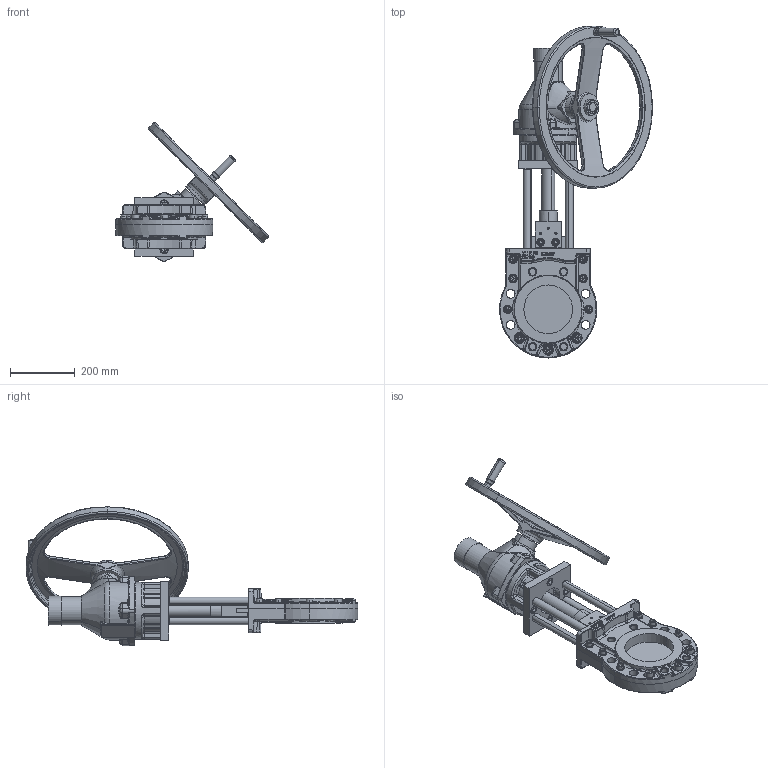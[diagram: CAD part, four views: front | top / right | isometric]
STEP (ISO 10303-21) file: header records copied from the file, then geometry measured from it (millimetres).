
FILE_DESCRIPTION (( 'STEP AP214' ), '1' );
FILE_NAME ('MHA DN 150 GK14.6.STEP', '2015-04-28T08:47:24', ( 'admin' ), ( 'Hewlett-Packard Company' ), 'SwSTEP 2.0', 'SolidWorks 2013', '' );
FILE_SCHEMA (( 'AUTOMOTIVE_DESIGN' ));
Length unit declared in the file: millimetre
Products named in the file (1): MHA DN 150 GK14.6
Bounding box: 471.48 x 1022.5 x 428.36 mm (x, y, z)
Volume: 12812153.1 mm3; surface area: 1287075.7 mm2
Topology: 36 solids, 49 shells, 2395 faces, 5738 edges, 3387 vertices
Faces by surface type: plane 752, cylinder 627, bspline 405, cone 324, torus 275, sphere 12
Entity records: 113872 total; most frequent: CARTESIAN_POINT 34086, ORIENTED_EDGE 11100, DIRECTION 11086, EDGE_CURVE 5550, AXIS2_PLACEMENT_3D 4413, VERTEX_POINT 3387, EDGE_LOOP 2601, UNCERTAINTY_MEASURE_WITH_UNIT 2431
